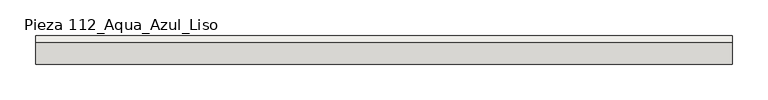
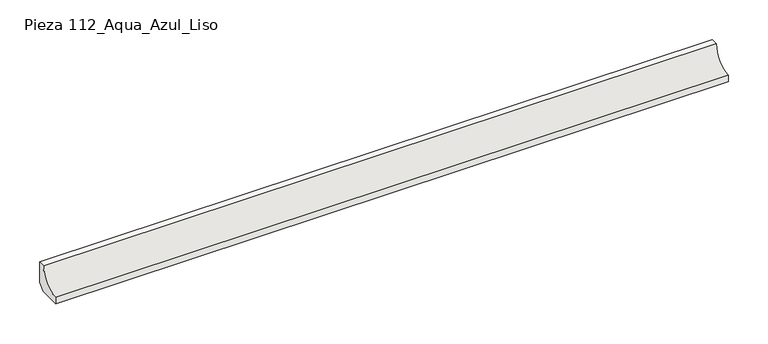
"""IFC4 building model written with IfcOpenShell, lengths in millimetres: slab geometry, ROSA GRES_112 : Pieza 112_Aqua_Azul_Liso."""

from ifc_helpers import new_model, si_unit, point, frame, frame_2d, origin, place, context, project, spatial, polyline, circle_curve, trimmed, segment, composite_curve, outline, extrude, source, transform, mapped, element, save


def pieza_112_aqua_azul_liso_9a706029(model_context):
    return source(origin(), model_context, "Body", "SweptSolid", [
        extrude(outline(composite_curve([segment(polyline([(0.0, 8.7114978), (-8.7114978, 0.0), (-40.0, 0.0), (-40.0, 9.9734114)]), True, "CONTINUOUS"), segment(trimmed(circle_curve(frame_2d((-39.9955547, 39.9955547)), 30.0221435), [point((-40.0, 9.9734114))], [point((-9.9734114, 40.0))], True, "CARTESIAN"), True, "CONTINUOUS"), segment(polyline([(-9.9734114, 40.0), (0.0, 40.0), (0.0, 8.7114978)]), True, "CONTINUOUS")], self_intersect=False)), frame((0.0, 0.0, 0.0), z_axis=(1.0, 0.0, 0.0), x_axis=(0.0, 1.0, 0.0)), (0.0, 0.0, 1.0), 976.5390715),
    ])


if __name__ == "__main__":
    model = new_model("IFC4")
    model_context = context("Model", 3, world=origin())
    ifc_project = project(units=[si_unit("LENGTHUNIT", "METRE", prefix="MILLI")], contexts=[model_context])
    site = spatial("IfcSite", under=ifc_project)
    building = spatial("IfcBuilding", under=site)
    placement = place(None, origin())
    pieza_112_aqua_azul_liso_shape = pieza_112_aqua_azul_liso_9a706029(model_context)
    element("IfcSlab", 1, ObjectType="ROSA GRES_112 : Pieza 112_Aqua_Azul_Liso", at=placement, inside=building, context=model_context, shape_type="MappedRepresentation", body=[
        mapped(pieza_112_aqua_azul_liso_shape, transform((0.0, 0.0, 0.0), x_axis=(1.0, 0.0, 0.0), y_axis=(0.0, 1.0, 0.0), z_axis=(0.0, 0.0, 1.0))),
    ])
    save(model, "model.ifc")
